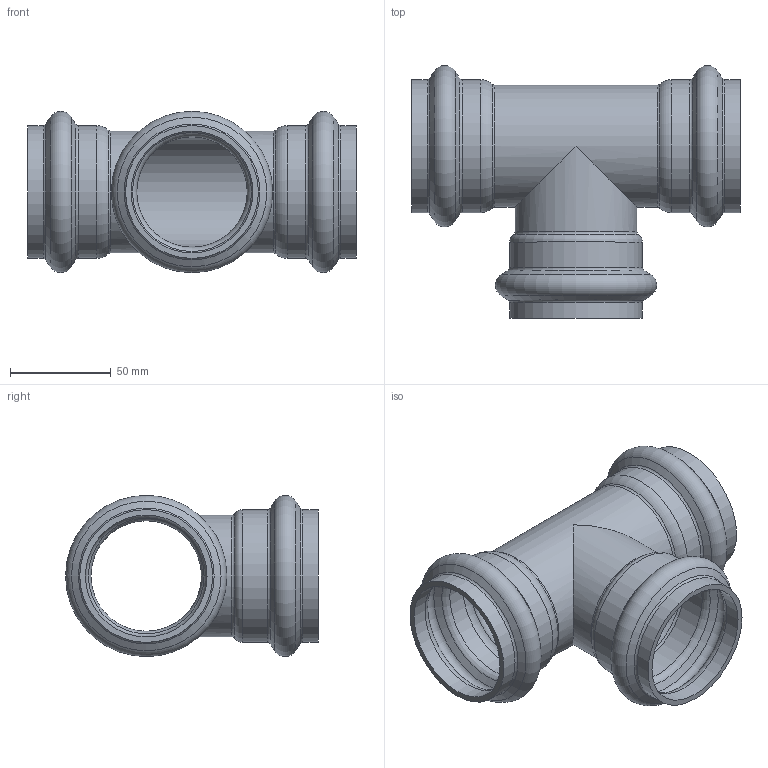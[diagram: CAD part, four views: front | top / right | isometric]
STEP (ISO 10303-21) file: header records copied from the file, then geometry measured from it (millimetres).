
FILE_DESCRIPTION(/* description */ ('VIC TEE STYLE P592 (P X P X P)','CAx-IF Rec.Pracs.---Representation and Presentation of Product Manufacturing Information (PMI)---4.0---2014-10-13'),/* implementation_level */ '2;1');
FILE_NAME(/* name */ 'C:\Users\Vjadhav\AppData\Roaming\Autodesk\ApplicationPlugins\Back Up\Victaulic_SS-Vic-Press-TP 304_Tee_Style P592 (VP)\Victaulic_SS-Vic-Press-TP 304_Tee_Style P592 (VP)_2 (50).stp',/* time_stamp */ '2020-08-12T19:00:57+06:00',/* author */ ('cgray'),/* organization */ ('Victaulic'),/* preprocessor_version */ 'ST-DEVELOPER v17.2',/* originating_system */ 'Autodesk Inventor 2019',/* authorisation */ '');
FILE_SCHEMA (('AP242_MANAGED_MODEL_BASED_3D_ENGINEERING_MIM_LF { 1 0 10303 442 1 1 4 }'));
Length unit declared in the file: inch
Products named in the file (1): P592-02.0
Bounding box: 163.07 x 125.31 x 79.93 mm (x, y, z)
Volume: 127871.7 mm3; surface area: 93998.7 mm2
Topology: 1 solids, 1 shells, 61 faces, 220 edges, 160 vertices
Faces by surface type: torus 30, cylinder 16, cone 12, plane 3
Full cylindrical faces by diameter (mm): 54.788 x2, 60.325 x8, 65.862 x6
Entity records: 2745 total; most frequent: DIRECTION 560, CARTESIAN_POINT 459, ORIENTED_EDGE 440, AXIS2_PLACEMENT_3D 265, EDGE_CURVE 220, CIRCLE 182, VERTEX_POINT 160, EDGE_LOOP 64
